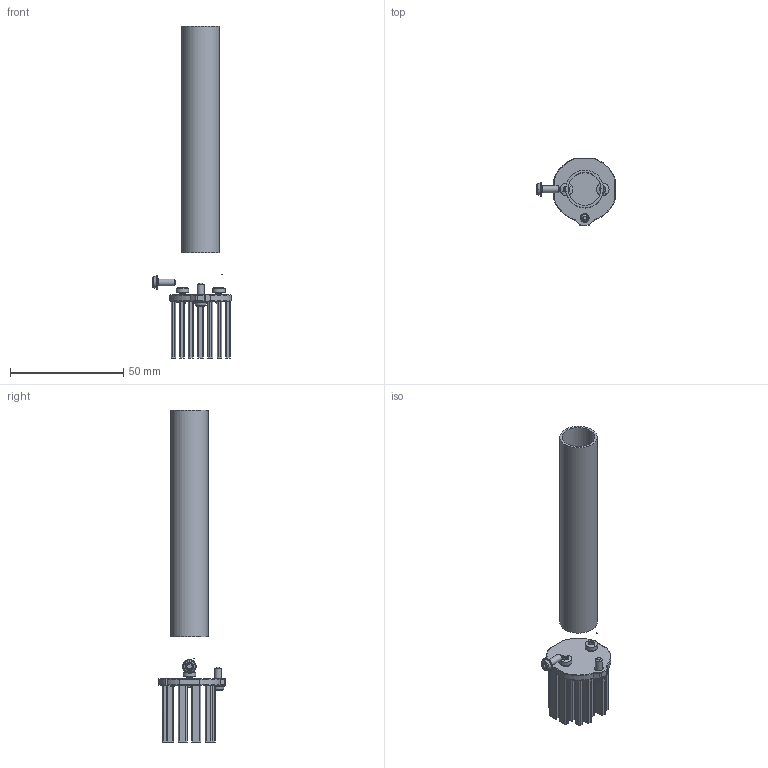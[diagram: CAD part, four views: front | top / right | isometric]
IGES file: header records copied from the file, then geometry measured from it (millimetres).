
Start section: C
Global section: file name: 01Z-YEY-06.igs; native system: By Siemens PLM Incorporated; preprocessor: XPlus GENERIC/IGES 23.0.61; author: Author; organization: Title; date: 20260611.083303; units: millimetre
Bounding box: 34.6 x 29.5 x 146.31 mm (x, y, z)
Volume: 11587 mm3; surface area: 18532.4 mm2
Topology: 6 solids, 8 shells, 451 faces, 1146 edges, 741 vertices
Faces by surface type: bspline 451
